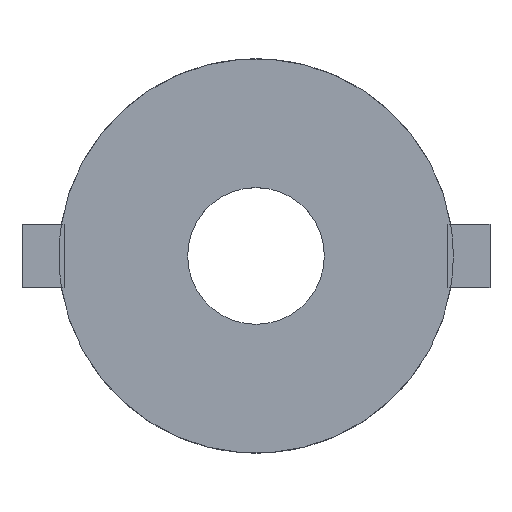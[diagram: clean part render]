
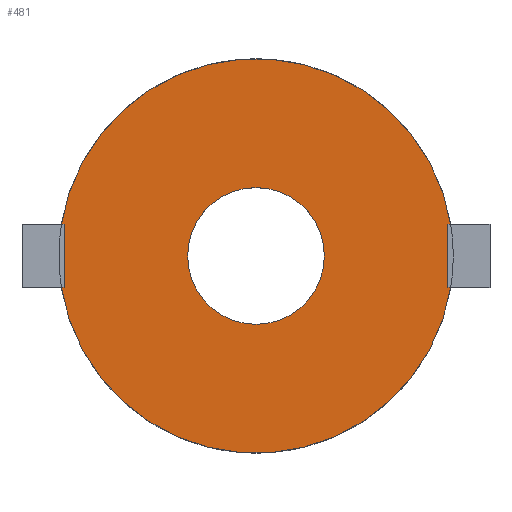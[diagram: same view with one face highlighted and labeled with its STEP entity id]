
A CAD part, top view. The second image highlights one B-rep face of the part: STEP entity #481.
In plain terms, the highlighted planar face has unit normal (0, 0, 1).
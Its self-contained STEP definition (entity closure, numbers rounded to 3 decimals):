
#31 = CYLINDRICAL_SURFACE('',#32,7.5);
#32 = AXIS2_PLACEMENT_3D('',#33,#34,#35);
#33 = CARTESIAN_POINT('',(0.,0.,-4.2));
#34 = DIRECTION('',(0.,0.,1.));
#35 = DIRECTION('',(1.,0.,-0.));
#108 = VERTEX_POINT('',#109);
#109 = CARTESIAN_POINT('',(7.403,-1.2,-2.6));
#133 = EDGE_CURVE('',#134,#108,#136,.T.);
#134 = VERTEX_POINT('',#135);
#135 = CARTESIAN_POINT('',(-7.403,-1.2,-2.6));
#136 = SURFACE_CURVE('',#137,(#142,#149),.PCURVE_S1.);
#137 = CIRCLE('',#138,7.5);
#138 = AXIS2_PLACEMENT_3D('',#139,#140,#141);
#139 = CARTESIAN_POINT('',(0.,0.,-2.6));
#140 = DIRECTION('',(0.,0.,1.));
#141 = DIRECTION('',(1.,0.,-0.));
#142 = PCURVE('',#31,#143);
#143 = DEFINITIONAL_REPRESENTATION('',(#144),#148);
#144 = LINE('',#145,#146);
#145 = CARTESIAN_POINT('',(0.,1.6));
#146 = VECTOR('',#147,1.);
#147 = DIRECTION('',(1.,0.));
#148 = ( GEOMETRIC_REPRESENTATION_CONTEXT(2) 
PARAMETRIC_REPRESENTATION_CONTEXT() REPRESENTATION_CONTEXT('2D SPACE',''
  ) );
#149 = PCURVE('',#150,#155);
#150 = PLANE('',#151);
#151 = AXIS2_PLACEMENT_3D('',#152,#153,#154);
#152 = CARTESIAN_POINT('',(0.,0.,-2.6));
#153 = DIRECTION('',(0.,0.,1.));
#154 = DIRECTION('',(1.,0.,-0.));
#155 = DEFINITIONAL_REPRESENTATION('',(#156),#160);
#156 = CIRCLE('',#157,7.5);
#157 = AXIS2_PLACEMENT_2D('',#158,#159);
#158 = CARTESIAN_POINT('',(0.,0.));
#159 = DIRECTION('',(1.,0.));
#160 = ( GEOMETRIC_REPRESENTATION_CONTEXT(2) 
PARAMETRIC_REPRESENTATION_CONTEXT() REPRESENTATION_CONTEXT('2D SPACE',''
  ) );
#218 = VERTEX_POINT('',#219);
#219 = CARTESIAN_POINT('',(-7.403,1.2,-2.6));
#243 = EDGE_CURVE('',#244,#218,#246,.T.);
#244 = VERTEX_POINT('',#245);
#245 = CARTESIAN_POINT('',(7.403,1.2,-2.6));
#246 = SURFACE_CURVE('',#247,(#252,#259),.PCURVE_S1.);
#247 = CIRCLE('',#248,7.5);
#248 = AXIS2_PLACEMENT_3D('',#249,#250,#251);
#249 = CARTESIAN_POINT('',(0.,0.,-2.6));
#250 = DIRECTION('',(0.,0.,1.));
#251 = DIRECTION('',(1.,0.,-0.));
#252 = PCURVE('',#31,#253);
#253 = DEFINITIONAL_REPRESENTATION('',(#254),#258);
#254 = LINE('',#255,#256);
#255 = CARTESIAN_POINT('',(0.,1.6));
#256 = VECTOR('',#257,1.);
#257 = DIRECTION('',(1.,0.));
#258 = ( GEOMETRIC_REPRESENTATION_CONTEXT(2) 
PARAMETRIC_REPRESENTATION_CONTEXT() REPRESENTATION_CONTEXT('2D SPACE',''
  ) );
#259 = PCURVE('',#150,#260);
#260 = DEFINITIONAL_REPRESENTATION('',(#261),#265);
#261 = CIRCLE('',#262,7.5);
#262 = AXIS2_PLACEMENT_2D('',#263,#264);
#263 = CARTESIAN_POINT('',(0.,0.));
#264 = DIRECTION('',(1.,0.));
#265 = ( GEOMETRIC_REPRESENTATION_CONTEXT(2) 
PARAMETRIC_REPRESENTATION_CONTEXT() REPRESENTATION_CONTEXT('2D SPACE',''
  ) );
#481 = ADVANCED_FACE('',(#482,#630),#150,.T.);
#482 = FACE_BOUND('',#483,.T.);
#483 = EDGE_LOOP('',(#484,#512,#513,#541,#564,#585,#586,#609));
#484 = ORIENTED_EDGE('',*,*,#485,.F.);
#485 = EDGE_CURVE('',#134,#486,#488,.T.);
#486 = VERTEX_POINT('',#487);
#487 = CARTESIAN_POINT('',(-7.3,-1.2,-2.6));
#488 = SURFACE_CURVE('',#489,(#493,#500),.PCURVE_S1.);
#489 = LINE('',#490,#491);
#490 = CARTESIAN_POINT('',(-8.9,-1.2,-2.6));
#491 = VECTOR('',#492,1.);
#492 = DIRECTION('',(1.,0.,0.));
#493 = PCURVE('',#150,#494);
#494 = DEFINITIONAL_REPRESENTATION('',(#495),#499);
#495 = LINE('',#496,#497);
#496 = CARTESIAN_POINT('',(-8.9,-1.2));
#497 = VECTOR('',#498,1.);
#498 = DIRECTION('',(1.,0.));
#499 = ( GEOMETRIC_REPRESENTATION_CONTEXT(2) 
PARAMETRIC_REPRESENTATION_CONTEXT() REPRESENTATION_CONTEXT('2D SPACE',''
  ) );
#500 = PCURVE('',#501,#506);
#501 = PLANE('',#502);
#502 = AXIS2_PLACEMENT_3D('',#503,#504,#505);
#503 = CARTESIAN_POINT('',(0.,0.,-2.6));
#504 = DIRECTION('',(0.,0.,1.));
#505 = DIRECTION('',(1.,0.,-0.));
#506 = DEFINITIONAL_REPRESENTATION('',(#507),#511);
#507 = LINE('',#508,#509);
#508 = CARTESIAN_POINT('',(-8.9,-1.2));
#509 = VECTOR('',#510,1.);
#510 = DIRECTION('',(1.,0.));
#511 = ( GEOMETRIC_REPRESENTATION_CONTEXT(2) 
PARAMETRIC_REPRESENTATION_CONTEXT() REPRESENTATION_CONTEXT('2D SPACE',''
  ) );
#512 = ORIENTED_EDGE('',*,*,#133,.T.);
#513 = ORIENTED_EDGE('',*,*,#514,.F.);
#514 = EDGE_CURVE('',#515,#108,#517,.T.);
#515 = VERTEX_POINT('',#516);
#516 = CARTESIAN_POINT('',(7.3,-1.2,-2.6));
#517 = SURFACE_CURVE('',#518,(#522,#529),.PCURVE_S1.);
#518 = LINE('',#519,#520);
#519 = CARTESIAN_POINT('',(7.3,-1.2,-2.6));
#520 = VECTOR('',#521,1.);
#521 = DIRECTION('',(1.,0.,0.));
#522 = PCURVE('',#150,#523);
#523 = DEFINITIONAL_REPRESENTATION('',(#524),#528);
#524 = LINE('',#525,#526);
#525 = CARTESIAN_POINT('',(7.3,-1.2));
#526 = VECTOR('',#527,1.);
#527 = DIRECTION('',(1.,0.));
#528 = ( GEOMETRIC_REPRESENTATION_CONTEXT(2) 
PARAMETRIC_REPRESENTATION_CONTEXT() REPRESENTATION_CONTEXT('2D SPACE',''
  ) );
#529 = PCURVE('',#530,#535);
#530 = PLANE('',#531);
#531 = AXIS2_PLACEMENT_3D('',#532,#533,#534);
#532 = CARTESIAN_POINT('',(0.,0.,-2.6));
#533 = DIRECTION('',(0.,0.,1.));
#534 = DIRECTION('',(1.,0.,-0.));
#535 = DEFINITIONAL_REPRESENTATION('',(#536),#540);
#536 = LINE('',#537,#538);
#537 = CARTESIAN_POINT('',(7.3,-1.2));
#538 = VECTOR('',#539,1.);
#539 = DIRECTION('',(1.,0.));
#540 = ( GEOMETRIC_REPRESENTATION_CONTEXT(2) 
PARAMETRIC_REPRESENTATION_CONTEXT() REPRESENTATION_CONTEXT('2D SPACE',''
  ) );
#541 = ORIENTED_EDGE('',*,*,#542,.T.);
#542 = EDGE_CURVE('',#515,#543,#545,.T.);
#543 = VERTEX_POINT('',#544);
#544 = CARTESIAN_POINT('',(7.3,1.2,-2.6));
#545 = SURFACE_CURVE('',#546,(#550,#557),.PCURVE_S1.);
#546 = LINE('',#547,#548);
#547 = CARTESIAN_POINT('',(7.3,-1.2,-2.6));
#548 = VECTOR('',#549,1.);
#549 = DIRECTION('',(0.,1.,0.));
#550 = PCURVE('',#150,#551);
#551 = DEFINITIONAL_REPRESENTATION('',(#552),#556);
#552 = LINE('',#553,#554);
#553 = CARTESIAN_POINT('',(7.3,-1.2));
#554 = VECTOR('',#555,1.);
#555 = DIRECTION('',(0.,1.));
#556 = ( GEOMETRIC_REPRESENTATION_CONTEXT(2) 
PARAMETRIC_REPRESENTATION_CONTEXT() REPRESENTATION_CONTEXT('2D SPACE',''
  ) );
#557 = PCURVE('',#530,#558);
#558 = DEFINITIONAL_REPRESENTATION('',(#559),#563);
#559 = LINE('',#560,#561);
#560 = CARTESIAN_POINT('',(7.3,-1.2));
#561 = VECTOR('',#562,1.);
#562 = DIRECTION('',(0.,1.));
#563 = ( GEOMETRIC_REPRESENTATION_CONTEXT(2) 
PARAMETRIC_REPRESENTATION_CONTEXT() REPRESENTATION_CONTEXT('2D SPACE',''
  ) );
#564 = ORIENTED_EDGE('',*,*,#565,.T.);
#565 = EDGE_CURVE('',#543,#244,#566,.T.);
#566 = SURFACE_CURVE('',#567,(#571,#578),.PCURVE_S1.);
#567 = LINE('',#568,#569);
#568 = CARTESIAN_POINT('',(7.3,1.2,-2.6));
#569 = VECTOR('',#570,1.);
#570 = DIRECTION('',(1.,0.,0.));
#571 = PCURVE('',#150,#572);
#572 = DEFINITIONAL_REPRESENTATION('',(#573),#577);
#573 = LINE('',#574,#575);
#574 = CARTESIAN_POINT('',(7.3,1.2));
#575 = VECTOR('',#576,1.);
#576 = DIRECTION('',(1.,0.));
#577 = ( GEOMETRIC_REPRESENTATION_CONTEXT(2) 
PARAMETRIC_REPRESENTATION_CONTEXT() REPRESENTATION_CONTEXT('2D SPACE',''
  ) );
#578 = PCURVE('',#530,#579);
#579 = DEFINITIONAL_REPRESENTATION('',(#580),#584);
#580 = LINE('',#581,#582);
#581 = CARTESIAN_POINT('',(7.3,1.2));
#582 = VECTOR('',#583,1.);
#583 = DIRECTION('',(1.,0.));
#584 = ( GEOMETRIC_REPRESENTATION_CONTEXT(2) 
PARAMETRIC_REPRESENTATION_CONTEXT() REPRESENTATION_CONTEXT('2D SPACE',''
  ) );
#585 = ORIENTED_EDGE('',*,*,#243,.T.);
#586 = ORIENTED_EDGE('',*,*,#587,.T.);
#587 = EDGE_CURVE('',#218,#588,#590,.T.);
#588 = VERTEX_POINT('',#589);
#589 = CARTESIAN_POINT('',(-7.3,1.2,-2.6));
#590 = SURFACE_CURVE('',#591,(#595,#602),.PCURVE_S1.);
#591 = LINE('',#592,#593);
#592 = CARTESIAN_POINT('',(-8.9,1.2,-2.6));
#593 = VECTOR('',#594,1.);
#594 = DIRECTION('',(1.,0.,0.));
#595 = PCURVE('',#150,#596);
#596 = DEFINITIONAL_REPRESENTATION('',(#597),#601);
#597 = LINE('',#598,#599);
#598 = CARTESIAN_POINT('',(-8.9,1.2));
#599 = VECTOR('',#600,1.);
#600 = DIRECTION('',(1.,0.));
#601 = ( GEOMETRIC_REPRESENTATION_CONTEXT(2) 
PARAMETRIC_REPRESENTATION_CONTEXT() REPRESENTATION_CONTEXT('2D SPACE',''
  ) );
#602 = PCURVE('',#501,#603);
#603 = DEFINITIONAL_REPRESENTATION('',(#604),#608);
#604 = LINE('',#605,#606);
#605 = CARTESIAN_POINT('',(-8.9,1.2));
#606 = VECTOR('',#607,1.);
#607 = DIRECTION('',(1.,0.));
#608 = ( GEOMETRIC_REPRESENTATION_CONTEXT(2) 
PARAMETRIC_REPRESENTATION_CONTEXT() REPRESENTATION_CONTEXT('2D SPACE',''
  ) );
#609 = ORIENTED_EDGE('',*,*,#610,.F.);
#610 = EDGE_CURVE('',#486,#588,#611,.T.);
#611 = SURFACE_CURVE('',#612,(#616,#623),.PCURVE_S1.);
#612 = LINE('',#613,#614);
#613 = CARTESIAN_POINT('',(-7.3,-1.2,-2.6));
#614 = VECTOR('',#615,1.);
#615 = DIRECTION('',(0.,1.,0.));
#616 = PCURVE('',#150,#617);
#617 = DEFINITIONAL_REPRESENTATION('',(#618),#622);
#618 = LINE('',#619,#620);
#619 = CARTESIAN_POINT('',(-7.3,-1.2));
#620 = VECTOR('',#621,1.);
#621 = DIRECTION('',(0.,1.));
#622 = ( GEOMETRIC_REPRESENTATION_CONTEXT(2) 
PARAMETRIC_REPRESENTATION_CONTEXT() REPRESENTATION_CONTEXT('2D SPACE',''
  ) );
#623 = PCURVE('',#501,#624);
#624 = DEFINITIONAL_REPRESENTATION('',(#625),#629);
#625 = LINE('',#626,#627);
#626 = CARTESIAN_POINT('',(-7.3,-1.2));
#627 = VECTOR('',#628,1.);
#628 = DIRECTION('',(0.,1.));
#629 = ( GEOMETRIC_REPRESENTATION_CONTEXT(2) 
PARAMETRIC_REPRESENTATION_CONTEXT() REPRESENTATION_CONTEXT('2D SPACE',''
  ) );
#630 = FACE_BOUND('',#631,.T.);
#631 = EDGE_LOOP('',(#632));
#632 = ORIENTED_EDGE('',*,*,#633,.F.);
#633 = EDGE_CURVE('',#634,#634,#636,.T.);
#634 = VERTEX_POINT('',#635);
#635 = CARTESIAN_POINT('',(2.6,0.,-2.6));
#636 = SURFACE_CURVE('',#637,(#642,#649),.PCURVE_S1.);
#637 = CIRCLE('',#638,2.6);
#638 = AXIS2_PLACEMENT_3D('',#639,#640,#641);
#639 = CARTESIAN_POINT('',(0.,0.,-2.6));
#640 = DIRECTION('',(0.,0.,1.));
#641 = DIRECTION('',(1.,0.,-0.));
#642 = PCURVE('',#150,#643);
#643 = DEFINITIONAL_REPRESENTATION('',(#644),#648);
#644 = CIRCLE('',#645,2.6);
#645 = AXIS2_PLACEMENT_2D('',#646,#647);
#646 = CARTESIAN_POINT('',(0.,0.));
#647 = DIRECTION('',(1.,0.));
#648 = ( GEOMETRIC_REPRESENTATION_CONTEXT(2) 
PARAMETRIC_REPRESENTATION_CONTEXT() REPRESENTATION_CONTEXT('2D SPACE',''
  ) );
#649 = PCURVE('',#650,#655);
#650 = CYLINDRICAL_SURFACE('',#651,2.6);
#651 = AXIS2_PLACEMENT_3D('',#652,#653,#654);
#652 = CARTESIAN_POINT('',(0.,0.,-4.21));
#653 = DIRECTION('',(0.,0.,1.));
#654 = DIRECTION('',(1.,0.,-0.));
#655 = DEFINITIONAL_REPRESENTATION('',(#656),#660);
#656 = LINE('',#657,#658);
#657 = CARTESIAN_POINT('',(0.,1.61));
#658 = VECTOR('',#659,1.);
#659 = DIRECTION('',(1.,0.));
#660 = ( GEOMETRIC_REPRESENTATION_CONTEXT(2) 
PARAMETRIC_REPRESENTATION_CONTEXT() REPRESENTATION_CONTEXT('2D SPACE',''
  ) );
